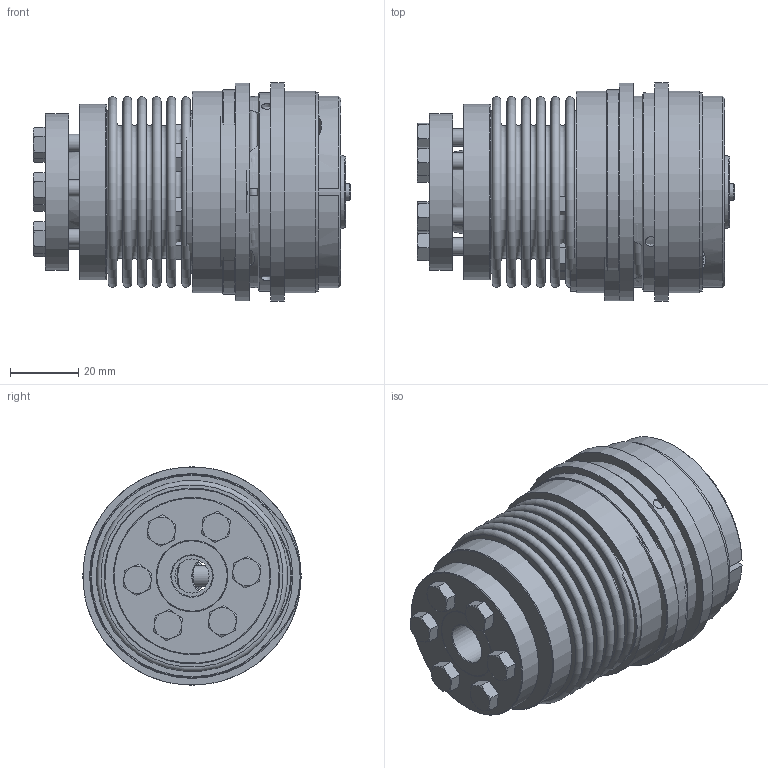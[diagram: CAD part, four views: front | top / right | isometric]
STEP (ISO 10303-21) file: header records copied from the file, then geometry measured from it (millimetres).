
FILE_DESCRIPTION( ( 'Unknown' ), '1' );
FILE_NAME( 'C:/Dokumente und Einstellungen/SKarpstein/Desktop/Korrigierte 3D Modelle/KBK-B-AK/KBK-BAK-30-92.stp', 'Unknown', ( 'Unknown' ), ( 'Unknown' ), 'XStep 1.0', 'Unknown', ' ' );
FILE_SCHEMA( ( 'automotive_design' ) );
Length unit declared in the file: millimetre
Products named in the file (13): Assem1; Assem2; Assem3; Zylinderschraube DIN 912_0_0_0; Hex Screw GradeC_DIN_ISO 4018 - M5 x 16-NN; BA30_Standard; DR30_Standard; Stellring 30_0; Druckring 30_0; L-K-30 Grundkörper_0; Klemmnabe 30_0; Flansch BK30; BL30_Standard_0
Bounding box: 93.05 x 64 x 64 mm (x, y, z)
Volume: 308474.2 mm3; surface area: 191434.5 mm2
Topology: 34 solids, 34 shells, 588 faces, 1221 edges, 781 vertices
Faces by surface type: plane 264, cone 145, cylinder 127, torus 52
Full cylindrical faces by diameter (mm): 3.242 x6, 4.2 x18, 4.917 x2, 5 x13, 5.5 x18, 6 x3, 6.4 x2, 10 x5, 11 x2, 12 x3, 23.9 x2, 24.526 x3, 25 x4, 30 x2, 34 x2, 37 x2, 38 x6, 40 x2, 46 x3, 46.5 x4, 47.3 x4, 51.5 x3, 52 x2, 58 x2, 59 x2, 60 x2, 64 x2
Entity records: 5354 total; most frequent: CARTESIAN_POINT 1203, DIRECTION 776, ORIENTED_EDGE 512, AXIS2_PLACEMENT_3D 363, EDGE_LOOP 350, EDGE_CURVE 256, FACE_OUTER_BOUND 250, VERTEX_POINT 220
